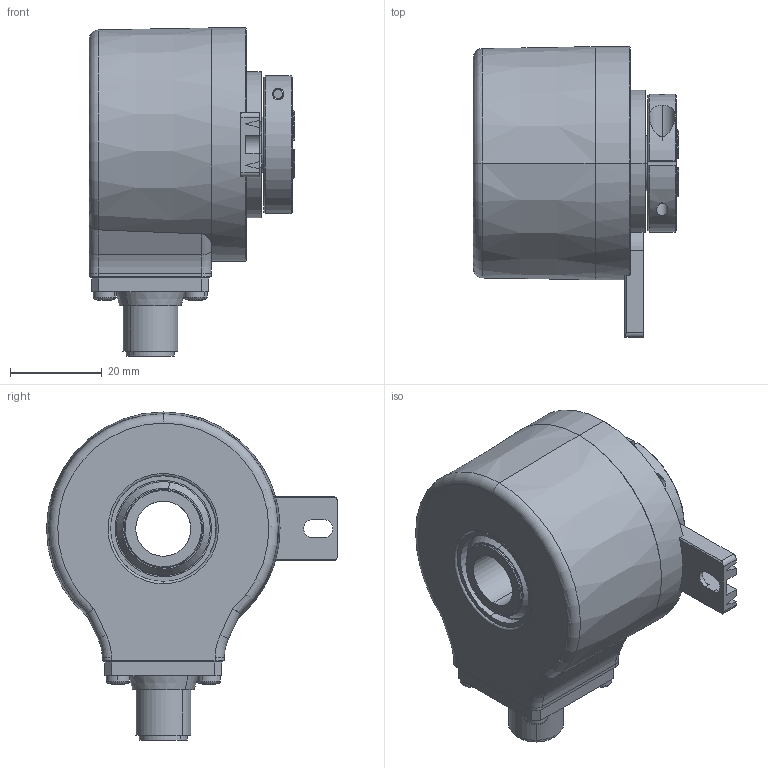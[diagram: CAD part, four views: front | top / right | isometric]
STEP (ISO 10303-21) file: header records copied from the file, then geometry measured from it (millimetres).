
FILE_DESCRIPTION (( 'STEP AP214' ), '1' );
FILE_NAME ('5020.25X2.XXXX.STEP', '2011-01-05T10:12:54', ( 'admin' ), ( 'Fritz Kübler GmbH' ), 'SwSTEP 2.0', 'SolidWorks 2009', '' );
FILE_SCHEMA (( 'AUTOMOTIVE_DESIGN' ));
Length unit declared in the file: millimetre
Products named in the file (1): 5020.25X2.XXXX
Bounding box: 44.7 x 63.3 x 71.4 mm (x, y, z)
Surface area: 18175 mm2 (no closed solid volume)
Topology: 0 solids, 24 shells, 296 faces, 873 edges, 580 vertices
Faces by surface type: plane 128, cylinder 95, sphere 24, cone 23, torus 22, bspline 4
Entity records: 13294 total; most frequent: CARTESIAN_POINT 2196, DIRECTION 1741, ORIENTED_EDGE 1481, EDGE_CURVE 841, AXIS2_PLACEMENT_3D 669, VERTEX_POINT 564, VECTOR 403, LINE 403
